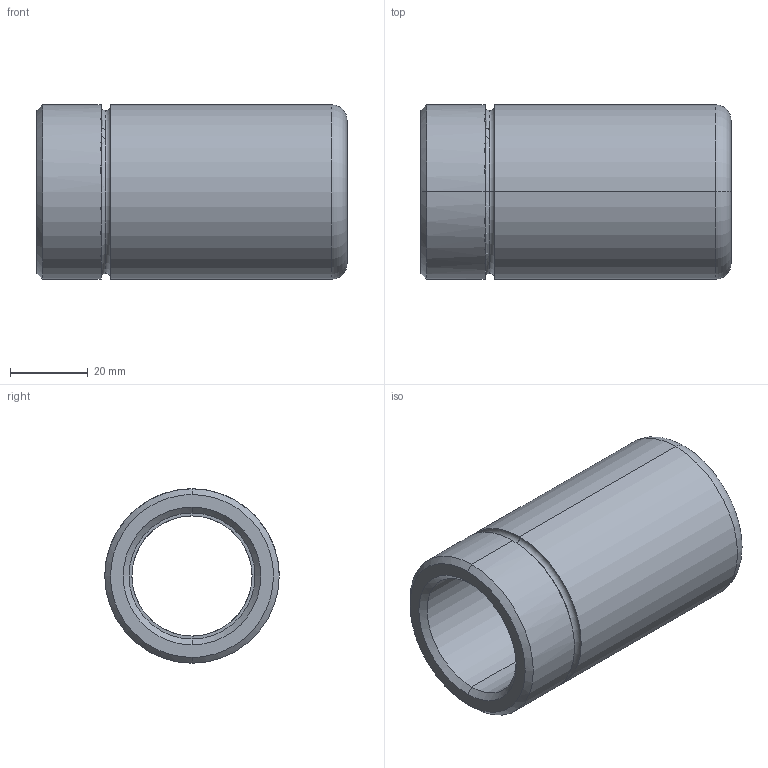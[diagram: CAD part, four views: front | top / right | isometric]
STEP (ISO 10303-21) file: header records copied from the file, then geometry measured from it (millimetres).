
FILE_DESCRIPTION(('CATIA V5 STEP Exchange'),'2;1');
FILE_NAME('C:\Users\Utente\Desktop\IO LAVORO\3D X SITO CF\X SITO\343-348\343-31 x 80.stp','2020-12-30T19:34:09+00:00',('none'),('none'),'CATIA Version 5 Release 20 GA (IN-10)','CATIA V5 STEP AP203','none');
FILE_SCHEMA(('CONFIG_CONTROL_DESIGN'));
Length unit declared in the file: millimetre
Products named in the file (1): 343-31 x 80
Bounding box: 80 x 45 x 45 mm (x, y, z)
Volume: 63515.9 mm3; surface area: 20829.1 mm2
Topology: 1 solids, 1 shells, 29 faces, 86 edges, 60 vertices
Faces by surface type: torus 12, cylinder 10, cone 4, plane 3
Entity records: 1160 total; most frequent: CARTESIAN_POINT 354, ORIENTED_EDGE 172, DIRECTION 130, AXIS2_PLACEMENT_3D 88, EDGE_CURVE 86, VERTEX_POINT 60, CIRCLE 58, EDGE_LOOP 32
